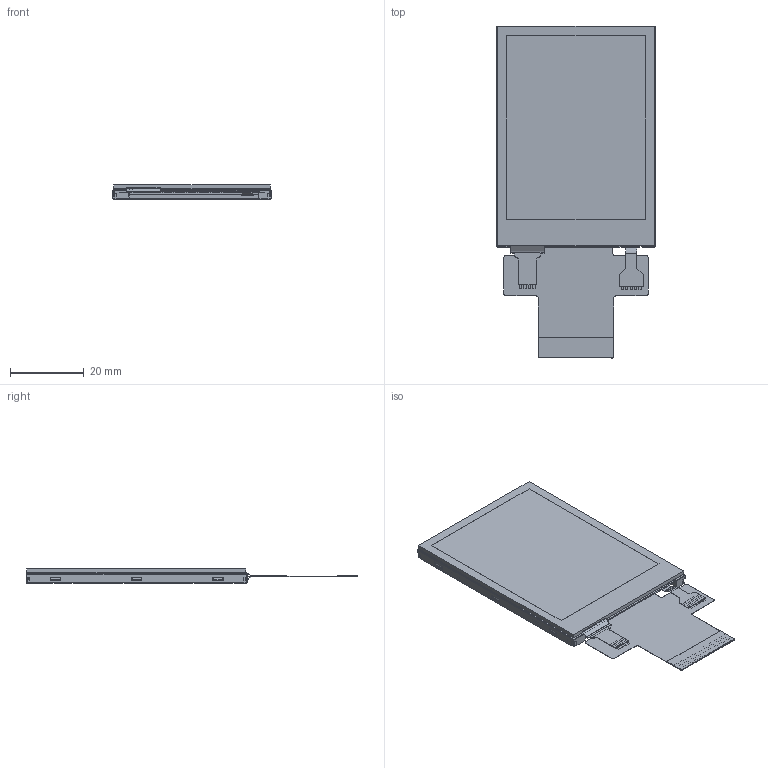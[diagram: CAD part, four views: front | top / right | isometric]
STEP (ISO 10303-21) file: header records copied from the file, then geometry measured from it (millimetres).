
FILE_DESCRIPTION (( 'STEP AP203' ), '1' );
FILE_NAME ('NHD-2.4-240320AF-CTXP-T_Rev1A.STEP', '2023-06-20T20:16:51', ( '' ), ( '' ), 'SwSTEP 2.0', 'SolidWorks 2019', '' );
FILE_SCHEMA (( 'CONFIG_CONTROL_DESIGN' ));
Length unit declared in the file: millimetre
Products named in the file (1): NHD-2.4-240320AF-CTXP-T_Rev1A
Bounding box: 42.8 x 89.91 x 3.85 mm (x, y, z)
Surface area: 29538 mm2 (no closed solid volume)
Topology: 0 solids, 25 shells, 719 faces, 2035 edges, 1344 vertices
Faces by surface type: plane 650, cylinder 65, bspline 4
Entity records: 23071 total; most frequent: CARTESIAN_POINT 4300, ORIENTED_EDGE 4022, DIRECTION 3558, EDGE_CURVE 2035, VECTOR 1890, LINE 1890, VERTEX_POINT 1344, AXIS2_PLACEMENT_3D 834
